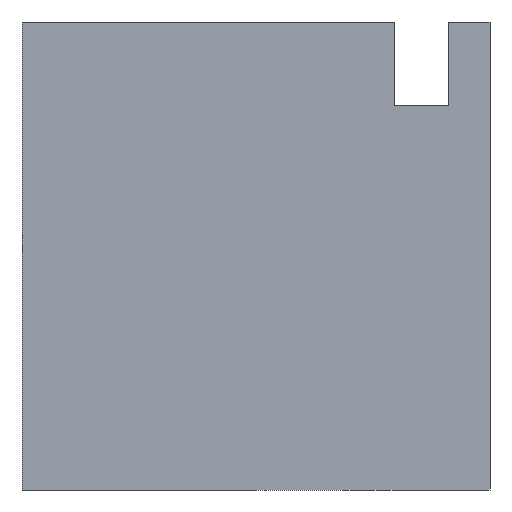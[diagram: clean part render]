
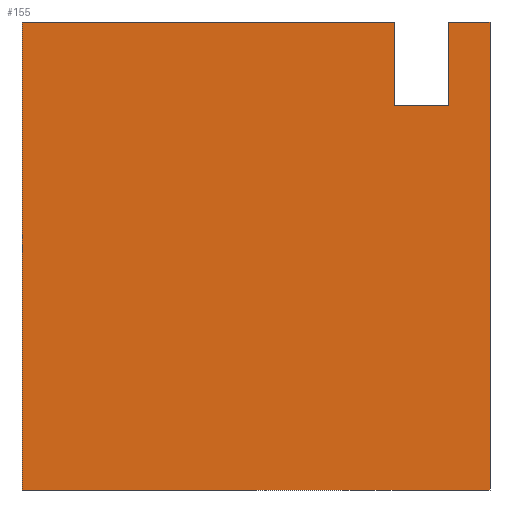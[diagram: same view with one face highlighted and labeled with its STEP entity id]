
A CAD part, left-side view. The second image highlights one B-rep face of the part: STEP entity #155.
In plain terms, the highlighted planar face has unit normal (-1, 0, 0).
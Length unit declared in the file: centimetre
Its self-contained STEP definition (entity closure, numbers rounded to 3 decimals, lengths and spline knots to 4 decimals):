
#15 = CARTESIAN_POINT ( 'NONE',  ( 0., 89.4687, 820.9487 ) ) ;
#31 = LINE ( 'NONE', #528, #897 ) ;
#66 = CARTESIAN_POINT ( 'NONE',  ( 0., 0., 1000. ) ) ;
#68 = CARTESIAN_POINT ( 'NONE',  ( 0., 0., 1000. ) ) ;
#71 = CARTESIAN_POINT ( 'NONE',  ( 0., 1000., 1000. ) ) ;
#85 = ORIENTED_EDGE ( 'NONE', *, *, #1087, .F. ) ;
#121 = DIRECTION ( 'NONE',  ( 0., 0., 1. ) ) ;
#155 = ADVANCED_FACE ( 'NONE', ( #387 ), #778, .F. ) ;
#156 = VERTEX_POINT ( 'NONE', #66 ) ;
#158 = VERTEX_POINT ( 'NONE', #1094 ) ;
#161 = DIRECTION ( 'NONE',  ( 0., 0., -1. ) ) ;
#168 = VECTOR ( 'NONE', #363, 100. ) ;
#193 = LINE ( 'NONE', #1322, #1053 ) ;
#208 = VECTOR ( 'NONE', #121, 100. ) ;
#243 = EDGE_CURVE ( 'NONE', #342, #583, #1304, .T. ) ;
#261 = DIRECTION ( 'NONE',  ( 1., 0., 0. ) ) ;
#266 = LINE ( 'NONE', #1098, #450 ) ;
#303 = VERTEX_POINT ( 'NONE', #721 ) ;
#306 = DIRECTION ( 'NONE',  ( 0., 0., -1. ) ) ;
#342 = VERTEX_POINT ( 'NONE', #727 ) ;
#359 = VERTEX_POINT ( 'NONE', #1004 ) ;
#360 = DIRECTION ( 'NONE',  ( 0., 0., -1. ) ) ;
#363 = DIRECTION ( 'NONE',  ( 0., 0., -1. ) ) ;
#365 = VECTOR ( 'NONE', #360, 100. ) ;
#387 = FACE_OUTER_BOUND ( 'NONE', #443, .T. ) ;
#440 = DIRECTION ( 'NONE',  ( 0., -1., 0. ) ) ;
#443 = EDGE_LOOP ( 'NONE', ( #85, #1131, #722, #1197, #957, #921, #1147, #798 ) ) ;
#450 = VECTOR ( 'NONE', #683, 100. ) ;
#528 = CARTESIAN_POINT ( 'NONE',  ( 0., 1000., 0. ) ) ;
#554 = LINE ( 'NONE', #15, #208 ) ;
#583 = VERTEX_POINT ( 'NONE', #869 ) ;
#588 = EDGE_CURVE ( 'NONE', #583, #158, #31, .T. ) ;
#664 = LINE ( 'NONE', #1044, #795 ) ;
#677 = LINE ( 'NONE', #68, #365 ) ;
#683 = DIRECTION ( 'NONE',  ( 0., -1., 0. ) ) ;
#714 = CARTESIAN_POINT ( 'NONE',  ( 0., 1000., 1000. ) ) ;
#721 = CARTESIAN_POINT ( 'NONE',  ( 0., 89.4687, 820.9487 ) ) ;
#722 = ORIENTED_EDGE ( 'NONE', *, *, #996, .F. ) ;
#727 = CARTESIAN_POINT ( 'NONE',  ( 0., 1000., 1000. ) ) ;
#729 = AXIS2_PLACEMENT_3D ( 'NONE', #1194, #261, #161 ) ;
#778 = PLANE ( 'NONE',  #729 ) ;
#789 = EDGE_CURVE ( 'NONE', #359, #156, #1236, .T. ) ;
#795 = VECTOR ( 'NONE', #1159, 100. ) ;
#796 = EDGE_CURVE ( 'NONE', #1059, #1315, #193, .T. ) ;
#798 = ORIENTED_EDGE ( 'NONE', *, *, #947, .F. ) ;
#869 = CARTESIAN_POINT ( 'NONE',  ( 0., 1000., 0. ) ) ;
#897 = VECTOR ( 'NONE', #440, 100. ) ;
#921 = ORIENTED_EDGE ( 'NONE', *, *, #1069, .F. ) ;
#947 = EDGE_CURVE ( 'NONE', #303, #359, #554, .T. ) ;
#957 = ORIENTED_EDGE ( 'NONE', *, *, #588, .T. ) ;
#996 = EDGE_CURVE ( 'NONE', #342, #1059, #664, .T. ) ;
#1004 = CARTESIAN_POINT ( 'NONE',  ( 0., 89.4687, 1000. ) ) ;
#1041 = CARTESIAN_POINT ( 'NONE',  ( 0., 203.6302, 820.9487 ) ) ;
#1044 = CARTESIAN_POINT ( 'NONE',  ( 0., 1000., 1000. ) ) ;
#1050 = VECTOR ( 'NONE', #1127, 100. ) ;
#1053 = VECTOR ( 'NONE', #306, 100. ) ;
#1059 = VERTEX_POINT ( 'NONE', #1202 ) ;
#1069 = EDGE_CURVE ( 'NONE', #156, #158, #677, .T. ) ;
#1087 = EDGE_CURVE ( 'NONE', #1315, #303, #266, .T. ) ;
#1094 = CARTESIAN_POINT ( 'NONE',  ( 0., 0., 0. ) ) ;
#1098 = CARTESIAN_POINT ( 'NONE',  ( 0., 89.4687, 820.9487 ) ) ;
#1127 = DIRECTION ( 'NONE',  ( 0., -1., 0. ) ) ;
#1131 = ORIENTED_EDGE ( 'NONE', *, *, #796, .F. ) ;
#1147 = ORIENTED_EDGE ( 'NONE', *, *, #789, .F. ) ;
#1159 = DIRECTION ( 'NONE',  ( 0., -1., 0. ) ) ;
#1194 = CARTESIAN_POINT ( 'NONE',  ( 0., 1000., 1000. ) ) ;
#1197 = ORIENTED_EDGE ( 'NONE', *, *, #243, .T. ) ;
#1202 = CARTESIAN_POINT ( 'NONE',  ( 0., 203.6302, 1000. ) ) ;
#1236 = LINE ( 'NONE', #714, #1050 ) ;
#1304 = LINE ( 'NONE', #71, #168 ) ;
#1315 = VERTEX_POINT ( 'NONE', #1041 ) ;
#1322 = CARTESIAN_POINT ( 'NONE',  ( 0., 203.6302, 820.9487 ) ) ;
